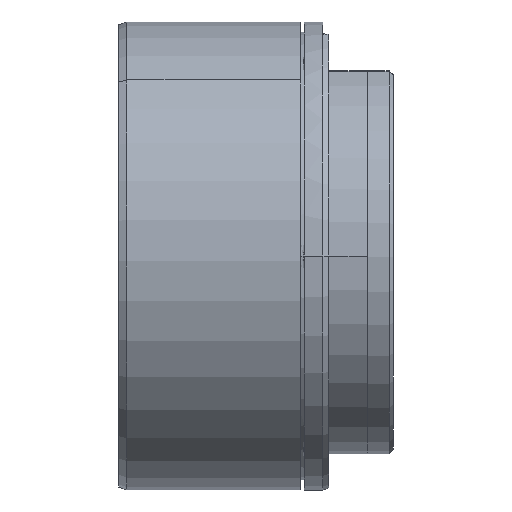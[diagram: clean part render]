
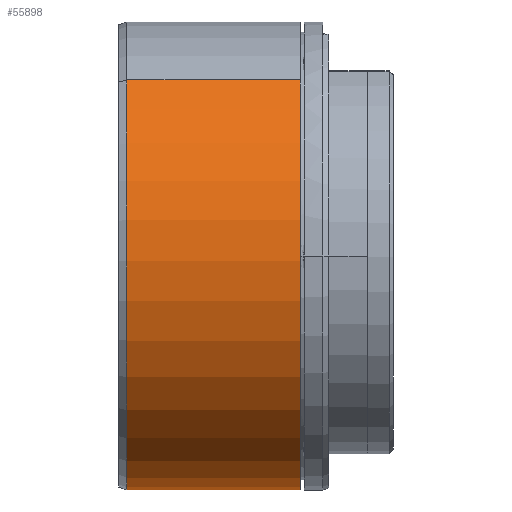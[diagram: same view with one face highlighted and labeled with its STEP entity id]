
A CAD part, front view. The second image highlights one B-rep face of the part: STEP entity #55898.
In plain terms, the highlighted cylindrical face has radius 29 mm (diameter 58 mm), a partial arc.
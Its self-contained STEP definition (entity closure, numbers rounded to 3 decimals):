
#3175 = CARTESIAN_POINT ( 'NONE',  ( -75.332, -19.104, 21.818 ) ) ;
#4984 = CARTESIAN_POINT ( 'NONE',  ( 17.5, -19.104, 21.818 ) ) ;
#10892 = ORIENTED_EDGE ( 'NONE', *, *, #56264, .T. ) ;
#11788 = VERTEX_POINT ( 'NONE', #48335 ) ;
#11824 = DIRECTION ( 'NONE',  ( 1., 0., 0. ) ) ;
#12345 = VECTOR ( 'NONE', #42053, 1000. ) ;
#13708 = VERTEX_POINT ( 'NONE', #19708 ) ;
#15397 = LINE ( 'NONE', #3175, #12345 ) ;
#16708 = DIRECTION ( 'NONE',  ( 0., 0.659, -0.752 ) ) ;
#19696 = VERTEX_POINT ( 'NONE', #4984 ) ;
#19708 = CARTESIAN_POINT ( 'NONE',  ( 17.5, 19.104, -21.818 ) ) ;
#23775 = FACE_OUTER_BOUND ( 'NONE', #50269, .T. ) ;
#25323 = VERTEX_POINT ( 'NONE', #52229 ) ;
#27586 = CARTESIAN_POINT ( 'NONE',  ( -75.332, 0., 0. ) ) ;
#28379 = DIRECTION ( 'NONE',  ( 0., -0.659, 0.752 ) ) ;
#30967 = CIRCLE ( 'NONE', #47013, 29. ) ;
#31835 = EDGE_CURVE ( 'NONE', #19696, #11788, #15397, .T. ) ;
#36280 = ORIENTED_EDGE ( 'NONE', *, *, #41240, .F. ) ;
#37081 = CARTESIAN_POINT ( 'NONE',  ( -4., 0., 0. ) ) ;
#38199 = DIRECTION ( 'NONE',  ( -1., 0., 0. ) ) ;
#40303 = CIRCLE ( 'NONE', #45888, 29. ) ;
#41240 = EDGE_CURVE ( 'NONE', #19696, #13708, #30967, .T. ) ;
#42053 = DIRECTION ( 'NONE',  ( -1., 0., 0. ) ) ;
#43153 = CARTESIAN_POINT ( 'NONE',  ( -75.332, 19.104, -21.818 ) ) ;
#45888 = AXIS2_PLACEMENT_3D ( 'NONE', #37081, #11824, #46377 ) ;
#46377 = DIRECTION ( 'NONE',  ( 0., 0.659, -0.752 ) ) ;
#46535 = DIRECTION ( 'NONE',  ( 1., 0., 0. ) ) ;
#46612 = AXIS2_PLACEMENT_3D ( 'NONE', #27586, #47510, #28379 ) ;
#46748 = CARTESIAN_POINT ( 'NONE',  ( 17.5, 0., 0. ) ) ;
#47013 = AXIS2_PLACEMENT_3D ( 'NONE', #46748, #46535, #16708 ) ;
#47510 = DIRECTION ( 'NONE',  ( -1., 0., 0. ) ) ;
#48335 = CARTESIAN_POINT ( 'NONE',  ( -4., -19.104, 21.818 ) ) ;
#50269 = EDGE_LOOP ( 'NONE', ( #50722, #36280, #52419, #10892 ) ) ;
#50722 = ORIENTED_EDGE ( 'NONE', *, *, #63590, .F. ) ;
#52229 = CARTESIAN_POINT ( 'NONE',  ( -4., 19.104, -21.818 ) ) ;
#52419 = ORIENTED_EDGE ( 'NONE', *, *, #31835, .T. ) ;
#53089 = VECTOR ( 'NONE', #38199, 1000. ) ;
#55429 = LINE ( 'NONE', #43153, #53089 ) ;
#55898 = ADVANCED_FACE ( 'NONE', ( #23775 ), #58891, .T. ) ;
#56264 = EDGE_CURVE ( 'NONE', #11788, #25323, #40303, .T. ) ;
#58891 = CYLINDRICAL_SURFACE ( 'NONE', #46612, 29. ) ;
#63590 = EDGE_CURVE ( 'NONE', #13708, #25323, #55429, .T. ) ;
